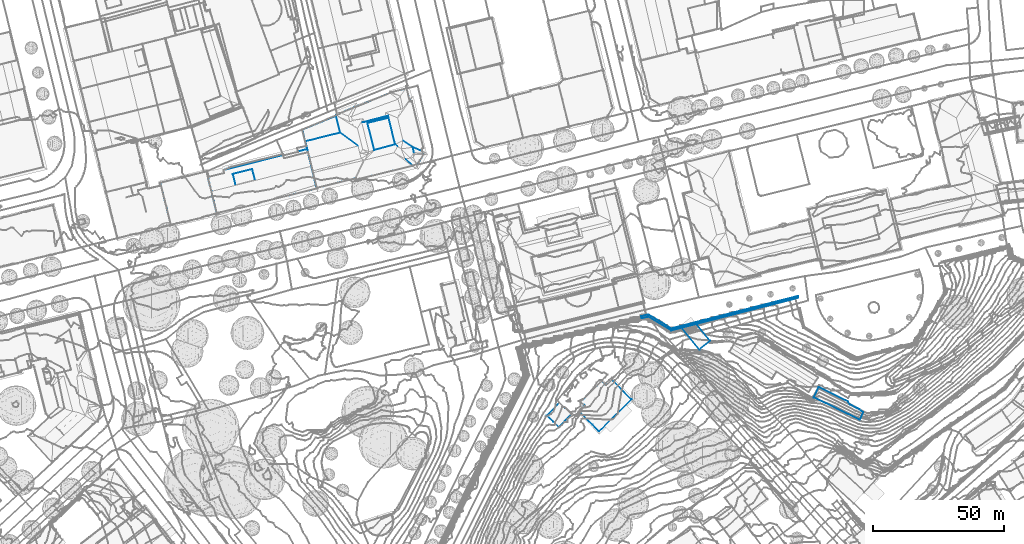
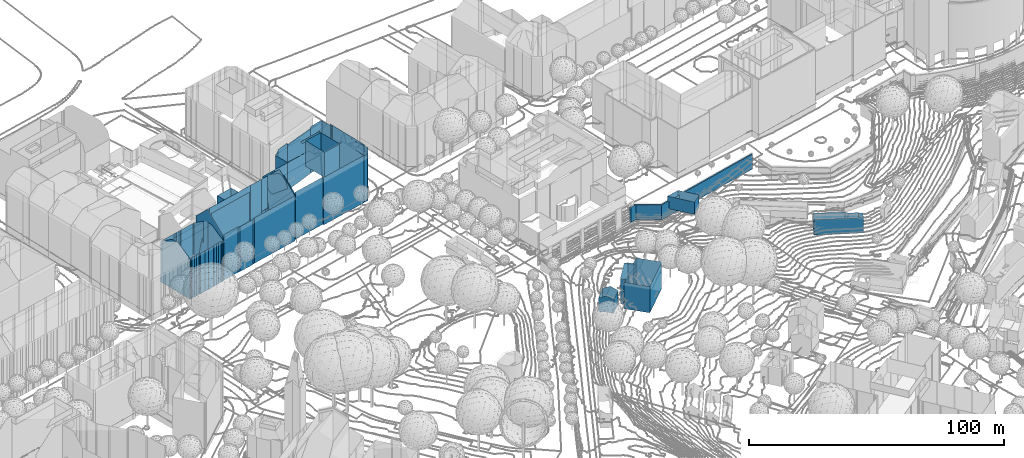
# Not in any storey, part 40 of 494: 8 walls.
"""IFC2X3 model written with IfcOpenShell, lengths in metres."""

import ifcopenshell
import ifcopenshell.guid

model = None  # the IFC model being written
_history = None  # IfcOwnerHistory: only IFC2X3 demands one
_inside = {}  # id of a spatial element -> (the spatial element, [elements in it])
_under = {}  # id of a project, library or spatial element -> (it, [spatial elements below it])
_declared = {}  # id of a project -> (the project, [libraries it declares])
_typed = {}  # id of a type object -> (the type object, [elements of that type])
_made_of = {}  # id of a material, layer set ... -> (it, [elements and type objects made of it])


def new_model(schema):
    """Start an empty IFC model of exactly this schema.

    Asked for "IFC4X3", IfcOpenShell would pick the latest addendum, in which some entities
    have other attributes; the version numbers below select the first issue.
    IFC2X3 requires an IfcOwnerHistory on every rooted entity: one is made here for all.
    """
    global model, _history
    if schema == "IFC4X3":
        model = ifcopenshell.file(schema_version=(4, 3, 0, 0))
    else:
        model = ifcopenshell.file(schema=schema)
    _inside.clear()
    _under.clear()
    _declared.clear()
    _typed.clear()
    _made_of.clear()
    _history = None
    if model.schema == "IFC2X3":
        org = make("IfcOrganization", Name="unknown")
        user = make(
            "IfcPersonAndOrganization",
            ThePerson=make("IfcPerson", FamilyName="unknown"),
            TheOrganization=org,
        )
        app = make(
            "IfcApplication",
            ApplicationDeveloper=org,
            Version="unknown",
            ApplicationFullName="unknown",
            ApplicationIdentifier="unknown",
        )
        _history = make(
            "IfcOwnerHistory",
            OwningUser=user,
            OwningApplication=app,
            ChangeAction="ADDED",
            CreationDate=0,
        )
    return model


def make(cls, **values):
    """One entity of the class cls with the attributes given. An attribute that is None is left unset."""
    return model.create_entity(
        cls, **{name: value for name, value in values.items() if value is not None}
    )


def rooted(cls, **values):
    """An entity with a GlobalId (a new one), such as an element, a storey or a relation."""
    return make(cls, GlobalId=ifcopenshell.guid.new(), OwnerHistory=_history, **values)


def si_unit(unit_type, name, prefix=None):
    """IfcSIUnit, for example si_unit("LENGTHUNIT", "METRE", prefix="MILLI")."""
    return make("IfcSIUnit", UnitType=unit_type, Prefix=prefix, Name=name)


def assignment(units):
    """IfcUnitAssignment: the units of a project."""
    return None if units is None else make("IfcUnitAssignment", Units=units)


def point(xyz):
    """IfcCartesianPoint."""
    return None if xyz is None else make("IfcCartesianPoint", Coordinates=xyz)


def direction(xyz):
    """IfcDirection."""
    return None if xyz is None else make("IfcDirection", DirectionRatios=xyz)


def frame(location, z_axis=None, x_axis=None):
    """IfcAxis2Placement3D, a coordinate frame: its origin and axes. An axis left out is left unset."""
    return make(
        "IfcAxis2Placement3D",
        Location=point(location),
        Axis=direction(z_axis),
        RefDirection=direction(x_axis),
    )


def origin_with_axes():
    """The frame at (0, 0, 0) with the z axis (0, 0, 1) and the x axis (1, 0, 0) written out."""
    return frame((0.0, 0.0, 0.0), z_axis=(0.0, 0.0, 1.0), x_axis=(1.0, 0.0, 0.0))


def place(relative_to, where):
    """IfcLocalPlacement: puts the frame where relative to a parent placement (None: the world)."""
    return make(
        "IfcLocalPlacement", PlacementRelTo=relative_to, RelativePlacement=where
    )


def context(
    kind, dimensions, precision=None, world=None, true_north=None, identifier=None
):
    """IfcGeometricRepresentationContext, for example the 3D "Model" context."""
    return make(
        "IfcGeometricRepresentationContext",
        ContextIdentifier=identifier,
        ContextType=kind,
        CoordinateSpaceDimension=dimensions,
        Precision=precision,
        WorldCoordinateSystem=world,
        TrueNorth=true_north,
    )


def subcontext(parent, identifier, kind, view, scale=None):
    """IfcGeometricRepresentationSubContext, for example "Body" below "Model"."""
    return make(
        "IfcGeometricRepresentationSubContext",
        ContextIdentifier=identifier,
        ContextType=kind,
        ParentContext=parent,
        TargetScale=scale,
        TargetView=view,
    )


def project(units=None, contexts=None):
    """IfcProject with its units and contexts."""
    return rooted(
        "IfcProject",
        Name="project",
        RepresentationContexts=contexts,
        UnitsInContext=assignment(units),
    )


def faces_of(points, faces, orient=None, outer=None):
    """IfcFace entities. A face is a list of loops; a loop is a list of indices into points, from 0.

    orient and outer hold one flag for each loop. By default every Orientation is true, the
    first loop of a face is its IfcFaceOuterBound and the others are IfcFaceBound.
    """
    made = []
    for i, loops in enumerate(faces):
        bounds = []
        for j, loop in enumerate(loops):
            is_outer = j == 0 if outer is None else outer[i][j]
            bounds.append(
                make(
                    "IfcFaceOuterBound" if is_outer else "IfcFaceBound",
                    Bound=make("IfcPolyLoop", Polygon=[points[k] for k in loop]),
                    Orientation=True if orient is None else orient[i][j],
                )
            )
        made.append(make("IfcFace", Bounds=bounds))
    return made


def faceted_brep(points, faces, orient=None, outer=None, voids=None):
    """IfcFacetedBrep: a solid bounded by flat faces; with voids (closed shells), ...WithVoids."""
    shared = [point(p) for p in points]
    hull = make("IfcClosedShell", CfsFaces=faces_of(shared, faces, orient, outer))
    if voids is None:
        return make("IfcFacetedBrep", Outer=hull)
    return make(
        "IfcFacetedBrepWithVoids",
        Outer=hull,
        Voids=[
            make(cls, CfsFaces=faces_of(shared, fs, o, b)) for cls, fs, o, b in voids
        ],
    )


def shape(context_of_items, identifier, shape_type, items):
    """IfcShapeRepresentation: the items that make up one representation, for example the "Body"."""
    return make(
        "IfcShapeRepresentation",
        ContextOfItems=context_of_items,
        RepresentationIdentifier=identifier,
        RepresentationType=shape_type,
        Items=items,
    )


def made_of(thing, what):
    """Note that an element or type object is made of a material, layer set ...; save() writes the relation."""
    if what is not None:
        _made_of.setdefault(what.id(), (what, []))[1].append(thing)
    return thing


def element(
    cls,
    number,
    at=None,
    inside=None,
    cuts=None,
    type_object=None,
    material=None,
    context=None,
    identifier="Body",
    shape_type=None,
    held_by="IfcProductDefinitionShape",
    body=None,
    shapes=None,
    **own,
):
    """One element of the class cls, such as IfcWall. Its Tag is "e" and its number.

    at: its placement. inside: the storey or other place that contains it. cuts: it is an
    opening in that element (IfcRelVoidsElement). A single representation is given by context,
    identifier, shape_type and body (its items); several are given by shapes. held_by: the class
    of the entity that holds the representations. save() writes the other relations.
    """
    e = rooted(cls, Tag="e%d" % number, ObjectPlacement=at, **own)
    if body is not None:
        shapes = [shape(context, identifier, shape_type, body)]
    if shapes is not None:
        e.Representation = make(held_by, Representations=shapes)
    if inside is not None:
        _inside.setdefault(inside.id(), (inside, []))[1].append(e)
    if cuts is not None:
        rooted(
            "IfcRelVoidsElement", RelatingBuildingElement=cuts, RelatedOpeningElement=e
        )
    if type_object is not None:
        _typed.setdefault(type_object.id(), (type_object, []))[1].append(e)
    return made_of(e, material)


def aggregate(whole, parts):
    """IfcRelAggregates: a whole, such as a stair, and the parts it consists of."""
    return rooted("IfcRelAggregates", RelatingObject=whole, RelatedObjects=parts)


def save(model, path):
    """Write the relations noted so far, then the file.

    IfcRelAggregates (storeys below a building ...), IfcRelContainedInSpatialStructure (elements
    in a storey), IfcRelDefinesByType, IfcRelAssociatesMaterial and IfcRelDeclares: one each for
    every whole, place, type object, material and project.
    """
    for whole, parts in _under.values():
        aggregate(whole, parts)
    for where, things in _inside.values():
        rooted(
            "IfcRelContainedInSpatialStructure",
            RelatedElements=things,
            RelatingStructure=where,
        )
    for kind, things in _typed.values():
        rooted("IfcRelDefinesByType", RelatedObjects=things, RelatingType=kind)
    for what, things in _made_of.values():
        rooted("IfcRelAssociatesMaterial", RelatedObjects=things, RelatingMaterial=what)
    for by, libraries in _declared.values():
        rooted("IfcRelDeclares", RelatingContext=by, RelatedDefinitions=libraries)
    model.write(path)


model = new_model("IFC2X3")

# Units and contexts
model_context = context("Model", 3, precision=1e-05, world=origin_with_axes())
body_context = subcontext(model_context, "Body", "Model", "MODEL_VIEW")
ifc_project = project(units=[si_unit("AREAUNIT", "SQUARE_METRE"), si_unit("LENGTHUNIT", "METRE")], contexts=[model_context])

# Walls
wall_1_placement = place(None, frame((211.8297320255, 101.9383160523, 526.7541), z_axis=(0.0, 0.0, 1.0), x_axis=(1.0, 0.0, 0.0)))
element("IfcWall", 1, at=wall_1_placement, Name="Wall 14", context=body_context, shape_type="Brep", body=[
    faceted_brep([(205.7030000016, 230.2597999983, 13.5498), (205.8740000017, 229.5947000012, 13.5498), (205.7030000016, 230.2597999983, 6.3935), (169.6170000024, 220.9891999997, 13.5499), (169.6170000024, 220.9891999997, 6.3936), (157.4409999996, 217.8623000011, 13.5499), (157.4409999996, 217.8623000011, 6.3936), (148.6390000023, 223.2098999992, 13.5499), (148.6390000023, 223.2098999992, 6.3936), (148.7010000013, 222.3691000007, 13.5499), (146.1469999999, 221.753899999, 13.5499), (148.7010000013, 222.3691000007, 6.3936), (157.3320000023, 217.1259999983, 13.5499), (157.3320000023, 217.1259999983, 6.3936), (205.8740000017, 229.5947000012, 6.3935), (146.1469999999, 221.753899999, 6.3936), (145.9510000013, 222.5439000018, 6.3936), (147.700000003, 222.9774999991, 6.3936), (145.9510000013, 222.5439000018, 13.5499), (147.700000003, 222.9774999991, 13.5499)], [[[0, 1, 2]], [[3, 0, 4]], [[5, 3, 6]], [[7, 5, 8]], [[9, 10, 11]], [[12, 9, 13]], [[1, 12, 14]], [[15, 10, 16]], [[8, 17, 7]], [[18, 17, 16]], [[17, 18, 19]], [[1, 14, 2]], [[0, 2, 4]], [[3, 4, 6]], [[5, 6, 8]], [[10, 15, 11]], [[9, 11, 13]], [[12, 13, 14]], [[10, 18, 16]], [[17, 19, 7]]]),
])
wall_2_placement = place(None, frame((334.3647320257, 288.1229160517, 521.6208), z_axis=(0.0, 0.0, 1.0), x_axis=(1.0, 0.0, 0.0)))
element("IfcWall", 2, at=wall_2_placement, Name="Wall 0", context=body_context, shape_type="Brep", body=[
    faceted_brep([(7.2990000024, -7.4619999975, 12.5817), (4.9020000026, -5.0108000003, 12.5957), (7.3359999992, -7.4990999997, -0.0001), (4.9189999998, -5.0293000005, -0.0001), (2.3610000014, -2.4131000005, 0.0), (3.2270000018, -3.2989000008, 12.6047), (0.0529999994, -0.053799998, 12.6237), (0.0, 0.0, 0.0), (0.0, 0.0, 12.5478), (12.444000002, 12.0898000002, 12.6667), (12.4539999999, 12.0800000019, 0.0), (12.3990000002, 12.1347000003, 12.6028), (12.3450000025, 12.1904000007, 0.0), (10.8709999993, 10.7431000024, 12.5218), (10.1410000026, 10.0252999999, 0.0), (10.1410000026, 10.0252999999, 12.5208), (9.7870000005, 10.3857000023, 0.0), (9.7870000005, 10.3857000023, 12.0108), (9.932, 10.2391999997, 12.2188), (2.0670000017, 2.0810000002, 12.5148), (1.8509999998, 2.3016999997, 12.2018), (2.0670000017, 2.0810000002, 0.0), (1.5490000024, 2.6093000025, 0.0), (1.8230000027, 2.3300000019, 2.7767), (8.4849999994, 11.7118999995, 0.0), (8.4849999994, 11.7118999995, 12.0098), (9.1050000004, 11.0800000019, 12.0098), (4.5730000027, 7.8612999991, 15.3955), (5.8910000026, 9.1590999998, 14.2546), (3.1440000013, 6.4550000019, 0.0), (5.5510000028, 8.8242000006, 0.0), (7.262000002, 10.508700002, 3.5656), (0.4150000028, 3.7675000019, 0.0), (2.0920000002, 5.4178999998, 13.3047), (0.4150000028, 3.7675000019, 11.8918), (1.6339999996, 2.5223999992, 11.8888), (14.7550000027, 9.7373000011, 12.6727), (15.0030000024, 9.4843000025, 0.0), (19.6040000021, 4.7998000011, -0.0001), (12.3450000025, 12.1904000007, 12.5248), (7.3359999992, -7.4990999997, 12.5277), (19.7280000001, 4.6728000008, -0.0001), (19.7280000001, 4.6728000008, 12.5007), (19.6040000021, 4.7998000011, 12.6847)], [[[0, 1, 2]], [[1, 3, 2]], [[4, 3, 1]], [[5, 6, 4]], [[7, 4, 6]], [[8, 7, 6]], [[9, 10, 11]], [[10, 12, 11]], [[13, 14, 15]], [[13, 12, 14]], [[16, 17, 18]], [[15, 14, 18]], [[18, 14, 16]], [[19, 20, 21]], [[20, 22, 23]], [[23, 22, 21]], [[19, 21, 7]], [[24, 25, 26]], [[17, 16, 26]], [[26, 16, 24]], [[27, 28, 29]], [[30, 29, 31]], [[31, 29, 28]], [[28, 25, 31]], [[31, 24, 30]], [[24, 31, 25]], [[32, 33, 29]], [[32, 34, 33]], [[20, 35, 22]], [[34, 32, 22]], [[9, 36, 10]], [[10, 36, 37]], [[38, 37, 36]], [[1, 5, 4]], [[12, 39, 11]], [[39, 12, 13]], [[21, 20, 23]], [[8, 19, 7]], [[33, 27, 29]], [[35, 34, 22]], [[0, 2, 40]], [[41, 42, 2]], [[40, 2, 42]], [[43, 42, 38]], [[42, 41, 38]], [[43, 38, 36]]]),
])
wall_3_placement = place(None, frame((321.8457320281, 286.6092160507, 525.7514), z_axis=(0.0, 0.0, 1.0), x_axis=(1.0, 0.0, 0.0)))
element("IfcWall", 3, at=wall_3_placement, Name="Wall 0", context=body_context, shape_type="Brep", body=[
    faceted_brep([(7.0059999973, 2.7568000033, 0.0), (7.0099999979, 2.7529000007, 7.8402), (9.254999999, 0.5937000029, 6.3204), (9.254999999, 0.5937000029, 0.0), (2.4149999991, -2.3222999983, 0.0), (4.4759999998, -4.3046999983, 6.3654), (2.2979999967, -2.2109999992, 7.8402), (4.4759999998, -4.3046999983, 0.0), (6.8849999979, -1.8359999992, 6.3424), (4.7419999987, 4.9326000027, 6.3164), (4.7419999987, 4.9326000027, 0.0), (0.0, 0.0, 0.0), (0.0, 0.0, 6.2964)], [[[0, 1, 2]], [[0, 2, 3]], [[4, 5, 6]], [[5, 4, 7]], [[2, 8, 3]], [[3, 8, 5]], [[5, 7, 3]], [[9, 10, 11]], [[4, 6, 11]], [[12, 11, 6]], [[1, 0, 9]], [[10, 9, 0]], [[11, 12, 9]]]),
])
wall_4_placement = place(None, frame((423.4767320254, 293.5516160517, 522.4066), z_axis=(0.0, 0.0, 1.0), x_axis=(1.0, 0.0, 0.0)))
element("IfcWall", 4, at=wall_4_placement, Name="Wall 0", context=body_context, shape_type="Brep", body=[
    faceted_brep([(18.2609999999, -5.2245999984, 7.4133), (18.9730000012, -5.6679999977, 7.4133), (18.2609999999, -5.2245999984, 0.0), (17.5970000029, -4.7608000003, 7.4133), (17.5970000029, -4.7608000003, 0.0), (17.6620000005, -4.6279999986, 7.4133), (17.6620000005, -4.6279999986, 0.0), (16.2400000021, -3.9208999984, 7.4133), (16.2400000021, -3.9208999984, 0.0), (13.950000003, -2.7333999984, 7.4133), (13.950000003, -2.7333999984, 0.0), (13.1080000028, -1.6152999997, 7.4133), (13.1080000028, -1.6152999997, 0.0), (1.9079999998, 3.9648000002, 7.4133), (1.9079999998, 3.9648000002, 0.0), (0.0, 0.0, 7.4133), (0.0, 0.0, 0.0), (17.6070000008, -8.4765999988, 7.4133), (17.6070000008, -8.4765999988, 0.0), (18.9730000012, -5.6679999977, 0.0)], [[[0, 1, 2]], [[3, 0, 4]], [[5, 3, 6]], [[7, 5, 8]], [[9, 7, 10]], [[11, 9, 12]], [[13, 11, 14]], [[15, 13, 16]], [[17, 15, 18]], [[1, 17, 19]], [[1, 19, 2]], [[0, 2, 4]], [[3, 4, 6]], [[5, 6, 8]], [[7, 8, 10]], [[9, 10, 12]], [[11, 12, 14]], [[13, 14, 16]], [[15, 16, 18]], [[17, 18, 19]]]),
])
wall_5_placement = place(None, frame((372.7347320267, 320.7049160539, 536.4583), z_axis=(0.0, 0.0, 1.0), x_axis=(1.0, 0.0, 0.0)))
element("IfcWall", 5, at=wall_5_placement, Name="Wall 0", context=body_context, shape_type="Brep", body=[
    faceted_brep([(5.6700000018, 1.2665999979, 5.9385), (11.254999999, -5.577200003, 5.9385), (5.6700000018, 1.2665999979, 0.0), (0.0, 0.0, 5.9385), (0.0, 0.0, 0.0), (7.2490000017, -8.8623000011, 5.9385), (7.2490000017, -8.8623000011, 0.0), (11.254999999, -5.577200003, 0.0)], [[[0, 1, 2]], [[3, 0, 4]], [[5, 3, 6]], [[1, 5, 7]], [[1, 7, 2]], [[0, 2, 4]], [[3, 4, 6]], [[5, 6, 7]]]),
])
wall_6_placement = place(None, frame((228.7347320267, 395.6180160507, 538.6455), z_axis=(0.0, 0.0, 1.0), x_axis=(1.0, 0.0, 0.0)))
element("IfcWall", 6, at=wall_6_placement, Name="Wall 0", context=body_context, shape_type="Brep", body=[
    faceted_brep([(42.0009999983, -6.7197999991, 24.2475), (42.4719999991, -8.6963, 24.3585), (42.0009999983, -6.7197999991, 24.2085), (38.2118999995, -4.1495999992, 28.3073), (45.5839999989, -8.2216999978, 21.8627), (45.5839999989, -8.2216999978, 21.6777), (36.1510000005, -6.3896999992, 25.7694), (35.2960000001, -5.6269999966, 24.9944), (35.2960000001, -5.6269999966, 24.7045), (39.0839999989, -11.1718999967, 24.2185), (41.8900000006, -13.7060999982, 21.8977), (41.8900000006, -13.7060999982, 21.6377), (22.5219999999, 2.7060000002, 25.1776), (23.4340000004, 2.9277000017, 25.1876), (23.4340000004, 2.9277000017, 23.8787), (21.1030000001, -6.2157999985, 26.7433), (14.3409999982, -1.1757999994, 20.598), (14.3409999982, -1.1757999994, 20.396), (45.432, -7.6074000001, 16.4902), (45.4869999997, -7.5966999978, 22.1507), (45.432, -7.6074999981, 22.2057), (45.432, -7.6074000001, 5.0583), (45.5789999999, -7.5781999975, -0.6581), (45.432, -7.6074000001, -0.6581), (45.5009999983, -7.2392999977, 22.0577), (45.5009999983, -7.2392999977, 16.3783), (45.5009999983, -7.2392999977, -0.6581), (46.0969999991, -7.0956999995, 21.4548), (46.0969999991, -7.0956999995, 13.1186), (41.7010000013, 10.7568000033, -0.658), (46.0969999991, -7.0956999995, 4.7824), (46.0969999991, -7.0956999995, -0.6581), (41.0969999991, 10.6132000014, 22.1839), (41.7010000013, 10.7568000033, 21.5719), (41.0969999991, 10.6133000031, -0.658), (41.0150000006, 10.9521000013, -0.658), (41.0150000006, 10.9521000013, 22.1849), (40.8720000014, 10.9052000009, 10.8369), (40.8720000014, 10.9052000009, 5.0895), (40.8720000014, 10.9052000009, -0.658), (33.7459999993, 14.1084000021, 21.306), (33.7239999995, 14.2002000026, 4.8355), (33.7459999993, 14.1084000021, 15.8135), (33.7239999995, 14.2002000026, 15.8215), (33.7239999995, 14.2002000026, -0.6579), (33.7459999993, 14.1084000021, -0.6579), (14.3020000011, 6.0175000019, 21.9489), (14.2630000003, 6.2158000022, 21.9489), (14.2630000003, 6.2158000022, -0.6579), (14.3020000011, 6.0175000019, 10.645), (14.3020000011, 6.0175000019, 4.9935), (14.3020000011, 6.0175999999, -0.6579), (20.0040000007, 8.4599000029, 4.9145), (19.9609999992, 8.5508000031, 21.6479), (20.0040000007, 8.4599000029, 16.0675), (19.9609999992, 8.5508000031, 4.9185), (20.0040000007, 8.4599000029, -0.6579), (19.9609999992, 8.5508000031, -0.6579), (45.9739999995, -9.5839999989, 13.3455), (45.9140000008, -9.5478999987, 10.5978), (45.9539999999, -9.5722999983, 16.1823), (45.9140000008, -9.5478999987, -0.6581), (46.0339999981, -9.620099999, 16.0933), (45.9140000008, -9.5478999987, 21.8547), (46.074000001, -9.6445999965, -0.6581), (46.074000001, -9.6445999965, 21.6767), (43.6389999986, -13.2792999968, 21.7577), (43.6389999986, -13.2792999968, 16.1533), (43.8099999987, -13.3740999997, 21.5707), (43.6389999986, -13.2792999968, 10.5498), (43.8099999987, -13.3740999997, -0.6581), (43.6389999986, -13.2792999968, 4.9453), (43.6389999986, -13.2792999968, -0.6581), (20.4659999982, -19.0888999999, 22.1207), (20.3409999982, -18.5625, -0.6581), (20.4659999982, -19.0888999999, 13.3915), (27.3429999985, -7.7919999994, 24.8125), (27.3429999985, -7.7919999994, 12.8646), (12.7609999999, 5.0957000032, 9.4711), (12.7609999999, 5.0957000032, 20.598), (12.7360000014, 5.2226000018, 9.4711), (12.7609999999, 5.0957000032, -0.6579), (12.7609999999, 5.0957000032, 0.0), (12.7360000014, 5.2226000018, 0.0), (12.7109999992, 5.3545000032, 20.598), (12.7109999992, 5.3545000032, -0.6579), (14.3409999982, -1.1757999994, 0.0), (14.3409999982, -1.1757999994, -0.658), (24.7540000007, 2.5117000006, -0.658), (24.7540000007, 2.5117000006, -0.163), (27.3429999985, -7.7919999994, -0.6581), (27.3429999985, -7.7919999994, -0.1632), (19.8524000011, -18.6827999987, 13.4985), (19.8469999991, -18.6845999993, -0.6581), (19.8557000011, -18.6816999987, 22.0237), (5.686999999, -22.1630999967, 10.6988), (5.743999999, -22.4120999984, 21.8337), (5.686999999, -22.1630999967, -0.6581), (5.743999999, -22.4120999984, -0.6581), (1.1110000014, -4.4423999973, 0.0), (1.1110000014, -4.4423999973, -0.6579), (32.6160000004, 5.2646000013, 24.9276), (31.7120000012, 5.0254000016, 23.8787), (32.8740000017, 5.3310000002, 25.1746), (35.2960000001, -5.6269999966, -0.1632), (32.8029999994, 4.5224000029, -0.163), (35.2960000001, -5.6269999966, -0.6581), (1.436999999, -6.2275999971, 9.471), (0.0, 0.0, 9.4711), (1.436999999, -6.2275999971, -0.0001), (1.4510000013, -6.2812999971, 9.471), (1.4510000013, -6.2812999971, -0.0001), (14.3409999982, -1.1757999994, 9.4711), (1.1110000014, -4.4423999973, 20.396), (1.1110000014, -4.4423999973, 9.4711), (1.943, -7.923899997, 9.471), (1.943, -7.923899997, -0.0001), (0.0, 0.0, 0.0), (24.7540000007, 2.5117000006, 25.1536), (24.7540000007, 2.5117000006, 12.8648), (32.8029999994, 4.5224000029, 24.9386), (32.8029999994, 4.5224000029, 12.8647), (35.2960000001, -5.6269999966, 12.8646), (32.8029999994, 4.5224000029, -0.658), (32.8949999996, 4.5459000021, 25.0356), (45.7930000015, -7.1689999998, -0.6581), (45.7930000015, -7.1689999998, 21.7637), (34.006000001, 14.2695000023, -0.6579), (39.3669999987, 15.5918000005, -0.658), (39.6970000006, 15.6728000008, -0.658), (39.3669999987, 15.5918000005, 21.8629), (33.7239999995, 14.2002000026, 21.315), (34.006000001, 14.2695000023, 21.6229), (39.6970000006, 15.6728000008, 21.5699), (14.2630000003, 6.2158000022, 16.2964), (14.4899999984, 6.308600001, 22.1409), (19.2870000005, 8.2744000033, 22.1179), (19.8900000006, 8.5215000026, 21.7129), (44.7459999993, -11.8320999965, 21.6147), (44.7459999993, -11.8320999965, -0.6581), (45.8729999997, -9.3808999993, 21.8827), (45.8889999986, -9.4463, 21.9267), (45.7699999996, -8.9706999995, 21.6527), (45.9140000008, -9.5478999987, 16.2263), (45.5329999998, -8.0156999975, 22.2007), (45.875, -9.3886999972, -0.6581), (45.5830000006, -8.2167999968, -0.6581), (45.7699999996, -8.9706999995, -0.6581), (41.7430000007, -13.8838, -0.6581), (41.7179999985, -13.7480999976, -0.6581), (41.7179999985, -13.7480999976, 22.1007), (41.7280000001, -13.8037, 22.1067), (41.7430000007, -13.8838, 22.0307), (43.5269999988, -13.3066999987, -0.6581), (43.3740000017, -13.3447999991, -0.6581), (42.9640000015, -13.4443999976, -0.6581), (43.5269999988, -13.3066999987, 21.8337), (43.3740000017, -13.3447999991, 21.7527), (42.9620000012, -13.4443999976, 21.6717), (20.4659999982, -19.0888999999, -0.6581), (21.995000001, -18.7148999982, 22.1097), (20.3409999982, -18.5625, 22.6207), (20.2829999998, -18.5761999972, 22.6207), (19.8709999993, -18.6787, 22.0747), (19.8630000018, -18.6806999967, -0.6581), (20.3409999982, -18.5625, 8.0711), (13.1319999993, 5.5293000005, -0.6579), (12.8839999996, 5.4267000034, 20.8), (12.9129999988, 5.4384000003, 20.768), (14.3020000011, 6.0175000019, 16.2974), (13.1319999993, 5.5293000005, 20.955), (5.4219999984, -22.4912, 21.8347), (5.4219999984, -22.4912, -0.6581), (19.8449999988, -18.6845999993, 13.4985), (19.8449999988, -18.6845999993, 22.0237), (18.6689999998, -18.9736999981, 22.0267), (16.0890000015, -19.6074999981, -0.6581), (16.0890000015, -19.6074999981, 22.0277), (5.686999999, -22.1630999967, 22.0557), (2.6319999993, -10.807599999, 26.7433), (3.3779999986, -13.9375, 26.6823), (5.0789999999, -21.0566999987, 23.1126), (5.0789999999, -21.0566999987, -0.6581), (3.8020000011, -15.7118999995, 26.6483), (3.9670000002, -16.4013999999, 27.3472), (3.9670000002, -16.4013999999, -0.6581), (3.8020000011, -15.7118999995, -0.6581), (2.6319999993, -10.807599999, -0.6581), (3.3779999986, -13.9375, -0.6581), (40.8720000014, 10.9052000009, 16.5854), (40.745000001, 11.4199000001, 21.6309), (40.7969999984, 11.2109000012, 21.9159), (40.4200000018, 12.7412, 21.6579), (40.4200000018, 12.7412, -0.658), (40.8429999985, 11.0224000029, 22.3338), (40.745000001, 11.4199000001, -0.658), (40.7969999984, 11.2109000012, -0.658), (40.8720000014, 10.9052000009, 22.3328), (21.9149999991, 9.2451000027, -0.6579), (21.1499999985, 8.9306000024, -0.6579), (33.7459999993, 14.1084000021, 10.32), (22.6240000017, 9.5371000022, -0.6579), (32.6750000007, 13.6689000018, -0.6579), (20.0040000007, 8.4599000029, 21.6439), (20.3790000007, 8.6133000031, 21.304), (21.1499999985, 8.9306000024, 21.297), (21.9149999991, 9.2451000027, 21.273), (22.6240000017, 9.5371000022, 21.251), (32.6750000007, 13.6689000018, 20.934), (33.3299999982, 13.9375, 20.906), (33.5219999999, 14.0166000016, 21.05), (45.5417999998, -7.5849999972, 22.0957)], [[[0, 1, 2]], [[3, 0, 2]], [[4, 2, 5]], [[6, 7, 8]], [[9, 10, 11]], [[12, 13, 14]], [[15, 16, 17]], [[18, 19, 20]], [[21, 22, 18]], [[22, 21, 23]], [[24, 22, 25]], [[26, 25, 22]], [[27, 28, 29]], [[30, 29, 28]], [[31, 29, 30]], [[32, 33, 34]], [[33, 29, 34]], [[35, 36, 32]], [[32, 34, 35]], [[37, 36, 38]], [[39, 38, 35]], [[40, 41, 42]], [[40, 43, 41]], [[41, 44, 45]], [[46, 47, 48]], [[49, 48, 50]], [[50, 48, 51]], [[52, 53, 54]], [[53, 52, 55]], [[52, 56, 57]], [[58, 59, 60]], [[59, 58, 61]], [[62, 58, 63]], [[64, 61, 65]], [[66, 67, 68]], [[68, 69, 70]], [[71, 70, 69]], [[71, 72, 70]], [[73, 74, 75]], [[76, 8, 77]], [[78, 79, 80]], [[81, 82, 83]], [[80, 84, 85]], [[84, 80, 79]], [[83, 85, 81]], [[85, 83, 80]], [[86, 82, 87]], [[88, 89, 90]], [[91, 90, 89]], [[92, 93, 94]], [[95, 96, 97]], [[96, 98, 97]], [[99, 86, 100]], [[14, 13, 101]], [[101, 102, 14]], [[103, 101, 13]], [[104, 105, 106]], [[107, 108, 109]], [[110, 107, 111]], [[17, 16, 79]], [[17, 78, 112]], [[113, 17, 114]], [[115, 110, 116]], [[108, 80, 117]], [[91, 104, 90]], [[118, 76, 119]], [[8, 7, 120]], [[8, 121, 122]], [[105, 89, 123]], [[118, 119, 121]], [[118, 120, 124]], [[118, 121, 120]], [[30, 125, 31]], [[125, 30, 26]], [[30, 28, 26]], [[25, 27, 126]], [[25, 126, 24]], [[26, 28, 25]], [[25, 28, 27]], [[44, 41, 127]], [[41, 128, 127]], [[128, 41, 129]], [[41, 43, 129]], [[130, 43, 131]], [[130, 131, 132]], [[133, 43, 130]], [[43, 133, 129]], [[134, 135, 136]], [[136, 137, 134]], [[53, 134, 137]], [[47, 135, 134]], [[134, 53, 55]], [[134, 55, 48]], [[48, 55, 57]], [[64, 65, 138]], [[139, 68, 70]], [[139, 64, 68]], [[68, 64, 138]], [[140, 141, 63]], [[140, 63, 142]], [[142, 63, 143]], [[20, 4, 5]], [[4, 20, 144]], [[5, 143, 18]], [[18, 143, 59]], [[5, 18, 20]], [[142, 143, 5]], [[21, 59, 61]], [[59, 21, 18]], [[21, 61, 145]], [[21, 146, 23]], [[147, 146, 21]], [[21, 145, 147]], [[148, 149, 150]], [[150, 151, 152]], [[150, 152, 148]], [[153, 72, 71]], [[153, 71, 154]], [[149, 71, 69]], [[154, 71, 155]], [[149, 155, 71]], [[69, 150, 149]], [[66, 156, 157]], [[157, 158, 66]], [[66, 158, 67]], [[11, 150, 69]], [[67, 158, 11]], [[10, 150, 11]], [[11, 69, 67]], [[75, 148, 152]], [[75, 159, 148]], [[152, 160, 75]], [[73, 75, 160]], [[161, 162, 163]], [[161, 164, 165]], [[164, 74, 165]], [[50, 85, 49]], [[50, 166, 85]], [[166, 50, 51]], [[84, 167, 168]], [[84, 168, 169]], [[49, 84, 169]], [[170, 46, 169]], [[168, 170, 169]], [[84, 49, 85]], [[98, 96, 171]], [[98, 171, 172]], [[173, 174, 175]], [[173, 176, 93]], [[177, 173, 175]], [[177, 178, 95]], [[95, 97, 176]], [[173, 95, 176]], [[95, 173, 177]], [[179, 113, 180]], [[115, 181, 180]], [[171, 181, 115]], [[182, 172, 171]], [[171, 115, 182]], [[181, 183, 180]], [[181, 184, 183]], [[113, 115, 180]], [[114, 115, 113]], [[116, 99, 100]], [[185, 115, 186]], [[115, 187, 188]], [[188, 186, 115]], [[187, 116, 100]], [[187, 115, 116]], [[115, 185, 182]], [[189, 190, 191]], [[133, 192, 129]], [[37, 193, 190]], [[129, 192, 193]], [[192, 190, 193]], [[191, 194, 189]], [[189, 37, 190]], [[193, 37, 195]], [[195, 37, 38]], [[196, 195, 38]], [[39, 196, 38]], [[189, 194, 197]], [[198, 199, 52]], [[52, 199, 56]], [[52, 200, 201]], [[201, 200, 202]], [[201, 198, 52]], [[200, 45, 202]], [[52, 54, 200]], [[54, 203, 204]], [[54, 204, 205]], [[206, 207, 54]], [[205, 206, 54]], [[54, 207, 42]], [[42, 200, 54]], [[42, 207, 208]], [[42, 208, 209]], [[210, 40, 42]], [[209, 210, 42]], [[19, 22, 211]], [[22, 19, 18]], [[211, 22, 24]], [[33, 27, 29]], [[197, 36, 189]], [[37, 189, 36]], [[36, 35, 38]], [[200, 42, 41]], [[41, 45, 200]], [[131, 43, 40]], [[46, 48, 169]], [[49, 169, 48]], [[203, 54, 53]], [[52, 57, 55]], [[58, 62, 61]], [[63, 60, 143]], [[63, 58, 60]], [[59, 143, 60]], [[62, 63, 65]], [[67, 69, 68]], [[74, 159, 75]], [[161, 165, 73]], [[74, 73, 165]], [[8, 122, 77]], [[82, 81, 87]], [[174, 93, 164]], [[163, 164, 161]], [[163, 174, 164]], [[95, 178, 96]], [[86, 87, 100]], [[105, 123, 106]], [[108, 117, 109]], [[107, 109, 111]], [[79, 78, 17]], [[17, 112, 114]], [[110, 111, 116]], [[80, 83, 117]], [[104, 106, 90]], [[76, 77, 119]], [[120, 121, 8]], [[89, 88, 123]]]),
])
wall_7_placement = place(None, frame((192.1757320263, 379.5145160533, 538.5554), z_axis=(0.0, 0.0, 1.0), x_axis=(1.0, 0.0, 0.0)))
element("IfcWall", 7, at=wall_7_placement, Name="Wall 0", context=body_context, shape_type="Brep", body=[
    faceted_brep([(4.2919999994, -15.683600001, 20.827), (4.3449999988, -15.8975000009, 20.62), (4.2919999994, -15.683600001, -0.9389), (4.3449999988, -15.8975000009, -0.9389), (11.9180000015, -13.8038000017, -0.939), (11.9180000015, -13.8038000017, 20.797), (11.9349999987, -13.9004000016, -0.939), (11.9349999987, -13.9004000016, 20.705), (12.7780000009, -13.7002000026, 20.695), (12.7780000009, -13.7002000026, -0.939), (12.7970000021, -13.7930000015, 20.606), (3.9620000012, -15.9922000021, 20.622), (19.6649999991, -11.9814999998, 20.691), (19.6889999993, -12.0870000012, -0.939), (19.6649999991, -11.9814999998, -0.939), (20.504999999, -11.7919999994, -0.939), (20.504999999, -11.7919999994, 20.673), (20.4829999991, -11.683600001, -0.939), (20.4829999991, -11.683600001, 20.774), (36.9420000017, -7.6289000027, -0.939), (41.9809999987, -6.3877000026, -0.939), (41.9809999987, -6.3877000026, 9.855), (6.7259999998, -0.5030000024, 23.6177), (6.4389999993, 0.6464000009, 22.4748), (6.7259999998, -0.5030000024, -0.9389), (0.2219999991, -0.8956000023, 22.4578), (0.5670000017, -0.808600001, 6.9833), (0.2219999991, -0.8956000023, 6.9833), (34.8090000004, 7.7840999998, 6.9833), (34.8090000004, 7.7840999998, 22.4578), (38.3509999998, 8.6717999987, 6.9833), (34.8090000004, 7.7840999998, -0.9389), (34.8090000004, 7.7840999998, 0.0), (38.3509999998, 8.6717999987, 0.0), (38.3819999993, 8.6805999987, 22.4578), (38.3819999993, 8.6805999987, -0.9389), (6.5610000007, 0.6952999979, 0.0), (29.1900000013, 6.373999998, 0.0), (6.5610000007, 0.6952999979, -0.9389), (34.5139999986, 9.0887999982, 6.9833), (37.993999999, 9.875, 6.9833), (34.5139999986, 9.0887999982, 0.0), (0.0, 0.0, 6.9833), (0.3489999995, 0.0877999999, 6.9833), (0.0, 0.0, 0.0), (38.7160000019, 7.4461999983, 6.9833), (39.2149999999, 5.4384000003, 6.9833), (38.7160000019, 7.4463, 0.0), (0.8410000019, -1.9375, 23.5787), (0.8410000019, -1.9375, -0.9389), (0.2219999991, -0.8955000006, 0.0), (0.5670000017, -0.808600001, 0.0), (0.2219999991, -0.8956000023, -0.9389), (29.2349999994, 6.1952999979, 22.6358), (34.8520000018, 7.5946999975, 22.6448), (29.2349999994, 6.1952999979, 13.7917), (34.8520000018, 7.5946999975, -0.9389), (29.2349999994, 6.1952999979, -0.9389), (6.5610000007, 0.6952999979, 22.4578), (8.5780000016, 1.2010999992, 19.4131), (6.5610000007, 0.6952999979, 6.9833), (29.1900000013, 6.373999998, 22.4578), (8.5780000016, 1.2010999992, 6.9833), (29.1900000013, 6.373999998, 19.4131), (38.5159999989, 8.120099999, 6.9833), (38.5159999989, 8.120099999, 0.0), (37.993999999, 9.875, 0.0), (39.1590999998, 5.4237999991, 6.9833), (39.2151000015, 5.4384999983, 0.0), (8.5080000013, 1.4794999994, 19.4131), (11.0020000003, -4.8476999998, 28.6892), (9.9880000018, -0.7998999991, 28.5792), (9.9880000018, -0.7998000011, 24.6616), (17.3969999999, 1.0594999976, 28.5792), (18.4120000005, -2.9873000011, 28.6892), (17.3969999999, 1.0594999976, 24.6626), (13.3830000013, -13.6475000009, 20.604), (19.6889999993, -12.0870000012, 20.592), (12.7970000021, -13.7930000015, -0.939), (41.6380000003, -4.9532000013, 22.0628), (41.9809999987, -6.3877000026, 20.71), (39.936999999, 2.1659999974, 28.9202), (41.6380000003, -4.9532000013, -0.939), (39.1590000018, 5.4237999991, 0.0), (39.936999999, 2.1659999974, -0.939), (9.6050000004, 1.9208999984, 19.4131), (29.0920000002, 6.7674999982, 19.4131), (9.6050000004, 1.9208999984, 0.0), (1.8319999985, -7.3955000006, -0.9389), (3.9620000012, -15.9922000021, -0.9389), (1.8319999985, -7.3956000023, 28.9202), (0.3489999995, 0.0877999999, 0.0), (0.5670000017, -0.808600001, -0.9389), (0.5670000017, -0.808600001, 22.4578), (6.439100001, 0.6464999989, -0.9389), (8.5080000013, 1.4794999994, 6.9833), (29.0920000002, 6.7674999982, 0.0), (29.1900000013, 6.373999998, -0.9389)], [[[0, 1, 2]], [[3, 2, 1]], [[2, 4, 5]], [[0, 2, 5]], [[6, 7, 4]], [[7, 6, 8]], [[9, 8, 6]], [[10, 8, 9]], [[3, 1, 11]], [[12, 13, 14]], [[15, 16, 14]], [[16, 17, 18]], [[17, 16, 15]], [[19, 20, 21]], [[21, 17, 19]], [[22, 23, 24]], [[25, 26, 27]], [[28, 29, 30]], [[31, 32, 33]], [[30, 34, 35]], [[34, 30, 29]], [[33, 35, 31]], [[35, 33, 30]], [[36, 37, 38]], [[39, 40, 41]], [[42, 43, 44]], [[45, 46, 47]], [[48, 24, 49]], [[50, 51, 52]], [[53, 54, 55]], [[55, 56, 57]], [[58, 59, 60]], [[59, 58, 61]], [[60, 59, 62]], [[63, 59, 61]], [[64, 45, 65]], [[40, 30, 66]], [[46, 67, 68]], [[69, 62, 59]], [[70, 71, 72]], [[73, 74, 75]], [[71, 75, 72]], [[76, 13, 77]], [[76, 10, 78]], [[76, 78, 13]], [[79, 80, 67]], [[81, 79, 34]], [[35, 34, 64]], [[34, 79, 64]], [[79, 67, 64]], [[35, 64, 65]], [[21, 20, 82]], [[21, 83, 67]], [[35, 83, 84]], [[35, 65, 83]], [[84, 83, 21]], [[21, 82, 84]], [[67, 80, 21]], [[56, 54, 29]], [[41, 28, 39]], [[29, 28, 56]], [[32, 31, 56]], [[85, 86, 87]], [[88, 89, 11]], [[90, 88, 11]], [[44, 50, 42]], [[90, 27, 88]], [[88, 50, 52]], [[50, 88, 27]], [[51, 91, 26]], [[92, 51, 49]], [[26, 49, 51]], [[26, 91, 43]], [[26, 48, 49]], [[26, 93, 48]], [[23, 58, 60]], [[60, 94, 23]], [[60, 36, 94]], [[94, 36, 38]], [[69, 85, 95]], [[36, 95, 87]], [[87, 95, 85]], [[96, 55, 37]], [[55, 96, 86]], [[97, 37, 57]], [[57, 37, 55]], [[61, 53, 63]], [[55, 86, 63]], [[55, 63, 53]], [[5, 4, 7]], [[78, 10, 9]], [[89, 3, 11]], [[12, 77, 13]], [[14, 16, 12]], [[18, 21, 80]], [[21, 18, 17]], [[23, 94, 24]], [[93, 26, 25]], [[37, 97, 38]], [[40, 66, 41]], [[43, 91, 44]], [[46, 68, 47]], [[22, 24, 48]], [[51, 92, 52]], [[54, 56, 55]], [[45, 47, 65]], [[30, 33, 66]], [[67, 83, 68]], [[95, 62, 69]], [[73, 75, 71]], [[28, 32, 56]], [[32, 28, 41]], [[86, 96, 87]], [[50, 27, 42]], [[25, 27, 90]], [[60, 95, 36]]]),
])
wall_8_placement = place(None, frame((174.5787320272, 375.3924160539, 537.4785), z_axis=(0.0, 0.0, 1.0), x_axis=(1.0, 0.0, 0.0)))
element("IfcWall", 8, at=wall_8_placement, Name="Wall 0", context=body_context, shape_type="Brep", body=[
    faceted_brep([(19.0960000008, -1.9277000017, 23.7517), (19.9679999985, -5.4502000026, 0.0), (19.0960000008, -1.9277000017, 0.0), (2.4510000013, -9.818400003, 23.7517), (1.5749999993, -6.2988000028, 23.7517), (2.4510000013, -9.818400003, 0.0), (0.3969999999, 0.0507999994, 19.5291), (6.9699999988, 1.6620999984, 0.0), (0.3969999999, 0.0507999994, 0.0), (6.9699999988, 1.6620999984, 19.5471), (0.3849999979, 0.0986000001, 19.4971), (0.3849999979, 0.0986000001, 0.0), (0.0, 0.0, 19.4981), (0.0, 0.0, 0.0), (0.2809999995, -1.1045000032, 20.2451), (0.2809999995, -1.1045000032, 0.0), (1.5749999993, -6.2988000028, 0.0), (17.5500000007, 4.3104999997, 0.0), (17.5500000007, 4.3104999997, 19.5411), (18.2819999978, 1.3583999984, 0.0), (18.248999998, 1.4891999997, 21.4449), (18.7100000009, -0.371100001, 22.6998), (18.7100000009, -0.3692000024, 4.8845), (17.1999999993, 4.2206999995, 0.0), (17.1999999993, 4.2206999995, 19.5421), (17.2129999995, 4.1679999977, 0.0), (17.2129999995, 4.1679999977, 19.5771), (10.6730000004, 2.5643999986, 19.5601), (10.6730000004, 2.5643999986, 0.0), (9.4670000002, 2.375, 0.0), (9.4670000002, 2.375, 19.4891), (10.6440000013, 2.6699000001, 0.0), (9.5449999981, 2.0780999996, 19.6901), (9.5449999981, 2.0780999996, 0.0), (8.2049999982, 1.748999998, 19.6871), (8.2049999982, 1.748999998, 0.0), (8.1479999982, 2.0673999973, 0.0), (8.1479999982, 2.0673999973, 19.4761), (6.9459999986, 1.7645999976, 19.4781), (6.9459999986, 1.7645999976, 0.0), (4.4800000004, -16.1475000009, 0.0), (4.2109999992, -16.2168000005, 19.4571), (4.0529999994, -16.2578000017, 0.0), (4.0529999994, -16.2578000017, 19.4561), (4.4479999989, -16.0469000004, 19.5271), (4.4800000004, -16.1475000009, 19.4591), (4.4479999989, -16.0469000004, 0.0), (4.9749999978, -15.9160000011, 19.5271), (4.9749999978, -15.9160000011, 0.0), (4.9620000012, -15.8555000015, 19.5671), (4.9620000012, -15.8555000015, 0.0), (6.3159999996, -15.5078000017, 0.0), (6.3350000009, -15.5800999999, 0.0), (6.3159999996, -15.5078000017, 19.5731), (6.3350000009, -15.5800999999, 19.5251), (7.4659999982, -15.2979000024, 19.5251), (7.4659999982, -15.2979000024, 0.0), (7.447900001, -15.2314999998, 0.0), (7.4479999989, -15.2314999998, 19.5691), (8.7690000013, -14.9004000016, 0.0), (8.7859999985, -14.9707000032, 19.5231), (8.7690000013, -14.9004000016, 19.5701), (9.3319999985, -14.8360000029, 19.5231), (9.3319999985, -14.8360000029, 0.0), (9.3709999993, -14.9912, 0.0), (11.8640000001, -14.3740000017, 0.0), (11.8640000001, -14.3740000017, 19.4161), (9.3709999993, -14.9912, 19.4191), (11.8819999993, -14.3125, 0.0), (11.8819999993, -14.3125, 19.4521), (13.6970000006, -13.8633000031, 0.0), (13.6970000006, -13.8633000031, 19.4491), (13.7370999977, -13.9002999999, 0.0), (13.7369999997, -13.9004000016, 19.4201), (16.2399999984, -13.2793000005, 19.4181), (16.2399999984, -13.2793000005, 0.0), (16.2089999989, -13.1524000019, 0.0), (16.2089999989, -13.1524000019, 19.5021), (16.7139999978, -13.0274000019, 0.0), (16.7139999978, -13.0274000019, 19.5021), (16.686999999, -12.9209000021, 0.0), (16.686999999, -12.9209000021, 19.5731), (18.0549999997, -12.5820000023, 0.0), (18.0549999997, -12.5820000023, 19.5721), (18.0819999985, -12.688500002, 0.0), (18.0819999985, -12.688500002, 19.5001), (19.1779999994, -12.4180000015, 19.4991), (19.1779999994, -12.4180000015, 0.0), (19.1519999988, -12.3106000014, 0.0), (20.5309999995, -11.9688000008, 0.0), (20.5309999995, -11.9688000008, 19.5691), (19.1519999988, -12.3106000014, 19.5701), (20.5579999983, -12.0752000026, 19.4981), (20.5579999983, -12.0752000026, 0.0), (20.9519999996, -11.9776000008, 0.0), (20.9519999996, -11.9776000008, 19.4971), (20.938000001, -11.9209000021, 0.0), (20.938000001, -11.9209000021, 19.5351), (21.0500000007, -11.8925999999, 0.0), (21.074000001, -11.9902000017, 19.4701), (21.074000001, -11.9902000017, 0.0), (21.5590000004, -11.8701000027, 0.0), (20.3660000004, -7.0557000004, 7.8362), (20.7890000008, -8.7627000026, 21.5419), (20.8099999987, -8.8496000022, 0.0), (20.3660000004, -7.0547000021, 22.6818), (21.5590000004, -11.8701000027, 19.4701), (19.9679999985, -5.4502000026, 23.7517), (10.6440000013, 2.6699000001, 19.4881), (8.7859999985, -14.9707000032, 0.0), (21.0500000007, -11.8925999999, 19.5351)], [[[0, 1, 2]], [[3, 4, 5]], [[6, 7, 8]], [[9, 7, 6]], [[10, 8, 11]], [[8, 10, 6]], [[12, 10, 13]], [[10, 11, 13]], [[14, 13, 15]], [[12, 13, 14]], [[4, 14, 16]], [[17, 18, 19]], [[20, 21, 19]], [[21, 2, 22]], [[22, 2, 19]], [[18, 23, 24]], [[18, 17, 23]], [[24, 23, 25]], [[26, 25, 27]], [[28, 27, 25]], [[29, 30, 31]], [[32, 30, 33]], [[30, 29, 33]], [[34, 33, 35]], [[36, 37, 35]], [[37, 34, 35]], [[38, 39, 7]], [[40, 41, 42]], [[41, 43, 42]], [[44, 45, 40]], [[46, 47, 44]], [[47, 46, 48]], [[49, 47, 50]], [[47, 48, 50]], [[49, 50, 51]], [[52, 53, 51]], [[52, 54, 53]], [[55, 52, 56]], [[55, 54, 52]], [[57, 58, 55]], [[55, 56, 57]], [[58, 57, 59]], [[59, 60, 61]], [[62, 63, 64]], [[65, 66, 64]], [[66, 67, 64]], [[68, 69, 66]], [[68, 66, 65]], [[69, 70, 71]], [[69, 68, 70]], [[72, 73, 71]], [[71, 70, 72]], [[73, 72, 74]], [[75, 74, 72]], [[76, 77, 74]], [[74, 75, 76]], [[78, 79, 77]], [[78, 77, 76]], [[80, 81, 78]], [[81, 79, 78]], [[82, 83, 81]], [[81, 80, 82]], [[84, 85, 82]], [[86, 85, 87]], [[85, 84, 87]], [[88, 86, 87]], [[89, 90, 91]], [[91, 88, 89]], [[92, 89, 93]], [[89, 92, 90]], [[94, 95, 92]], [[92, 93, 94]], [[95, 96, 97]], [[97, 96, 98]], [[99, 98, 100]], [[99, 100, 101]], [[102, 103, 104]], [[102, 1, 105]], [[1, 102, 104]], [[106, 101, 104]], [[43, 5, 42]], [[5, 43, 3]], [[107, 1, 0]], [[4, 16, 5]], [[14, 15, 16]], [[19, 21, 22]], [[20, 19, 18]], [[0, 2, 21]], [[26, 24, 25]], [[27, 31, 108]], [[31, 27, 28]], [[108, 31, 30]], [[32, 33, 34]], [[37, 39, 38]], [[37, 36, 39]], [[7, 9, 38]], [[45, 41, 40]], [[46, 44, 40]], [[51, 53, 49]], [[58, 59, 61]], [[109, 60, 59]], [[60, 63, 62]], [[60, 109, 63]], [[67, 62, 64]], [[83, 82, 85]], [[86, 88, 91]], [[95, 94, 96]], [[98, 110, 97]], [[110, 98, 99]], [[106, 99, 101]], [[105, 103, 102]], [[103, 106, 104]], [[1, 107, 105]]]),
])

save(model, "model.ifc")
